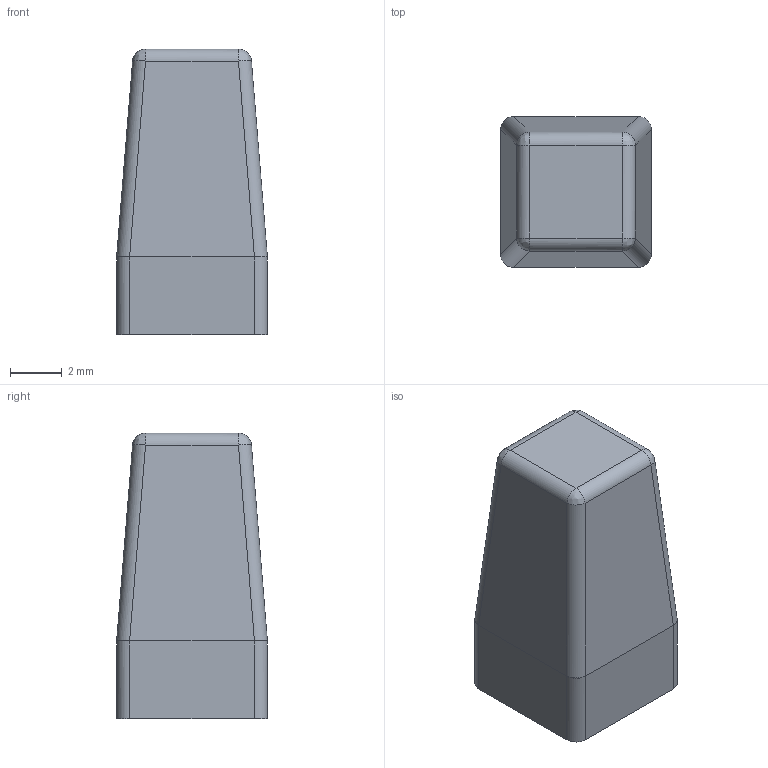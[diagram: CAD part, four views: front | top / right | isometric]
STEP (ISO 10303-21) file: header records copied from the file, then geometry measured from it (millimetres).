
FILE_DESCRIPTION(/* description */ (''),/* implementation_level */ '2;1');
FILE_NAME(/* name */ 'HPBUTT~1',/* time_stamp */ '2018-09-03T01:18:23+09:00',/* author */ (''),/* organization */ (''),/* preprocessor_version */ 'ST-DEVELOPER v15',/* originating_system */ '',/* authorisation */ '');
FILE_SCHEMA (('AUTOMOTIVE_DESIGN_CC2'));
Length unit declared in the file: millimetre
Products named in the file (1): Document
Bounding box: 5.8 x 5.8 x 11 mm (x, y, z)
Surface area: 386.9 mm2 (no closed solid volume)
Topology: 0 solids, 1 shells, 39 faces, 100 edges, 60 vertices
Faces by surface type: bspline 20, plane 19
Entity records: 1054 total; most frequent: CARTESIAN_POINT 429, ORIENTED_EDGE 192, EDGE_CURVE 100, B_SPLINE_CURVE_WITH_KNOTS 68, VERTEX_POINT 60, EDGE_LOOP 40, ADVANCED_FACE 39, FACE_OUTER_BOUND 39
